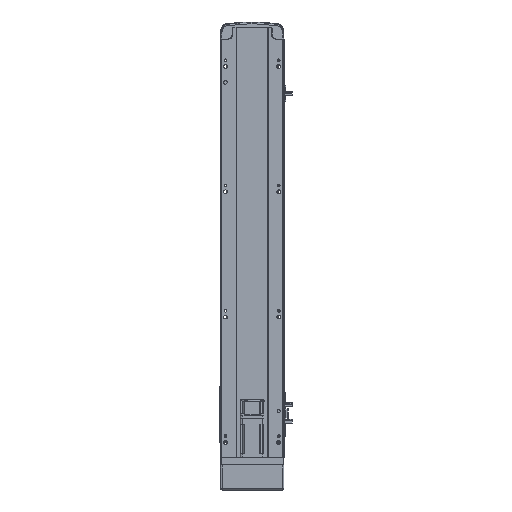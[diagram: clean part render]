
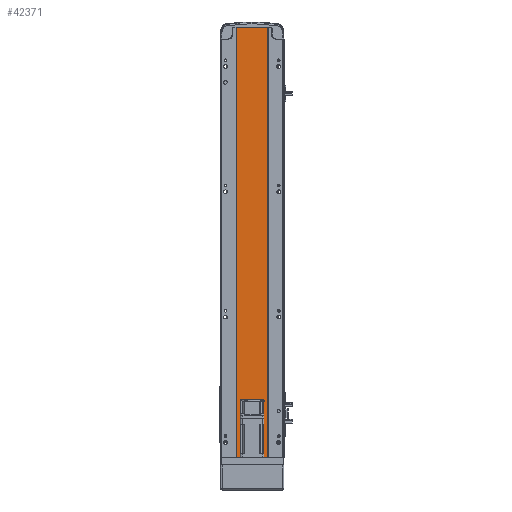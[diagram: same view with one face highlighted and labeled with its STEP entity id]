
A CAD part, front view. The second image highlights one B-rep face of the part: STEP entity #42371.
In plain terms, the highlighted planar face has unit normal (0, -1, 0).
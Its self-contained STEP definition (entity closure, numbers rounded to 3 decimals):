
#401 = EDGE_LOOP ( 'NONE', ( #9305, #34169, #57733, #53724 ) ) ;
#1762 = CARTESIAN_POINT ( 'NONE',  ( 24.5, 2., 687. ) ) ;
#3227 = LINE ( 'NONE', #35952, #7653 ) ;
#4751 = VECTOR ( 'NONE', #55505, 1000. ) ;
#4961 = EDGE_CURVE ( 'NONE', #14610, #27593, #10082, .T. ) ;
#5760 = CARTESIAN_POINT ( 'NONE',  ( -24.5, 2., 0. ) ) ;
#7138 = CARTESIAN_POINT ( 'NONE',  ( -24.5, 2., 687. ) ) ;
#7653 = VECTOR ( 'NONE', #49587, 1000. ) ;
#9305 = ORIENTED_EDGE ( 'NONE', *, *, #48823, .T. ) ;
#10082 = LINE ( 'NONE', #1762, #20570 ) ;
#11170 = AXIS2_PLACEMENT_3D ( 'NONE', #36351, #54825, #54615 ) ;
#13933 = VERTEX_POINT ( 'NONE', #22291 ) ;
#14610 = VERTEX_POINT ( 'NONE', #22994 ) ;
#15401 = VERTEX_POINT ( 'NONE', #5760 ) ;
#17434 = EDGE_CURVE ( 'NONE', #13933, #14610, #35469, .T. ) ;
#20570 = VECTOR ( 'NONE', #33000, 1000. ) ;
#22274 = LINE ( 'NONE', #24713, #4751 ) ;
#22291 = CARTESIAN_POINT ( 'NONE',  ( -24.5, 2., 687. ) ) ;
#22994 = CARTESIAN_POINT ( 'NONE',  ( 24.5, 2., 687. ) ) ;
#23482 = PLANE ( 'NONE',  #11170 ) ;
#24713 = CARTESIAN_POINT ( 'NONE',  ( -24.5, 2., 687. ) ) ;
#27593 = VERTEX_POINT ( 'NONE', #31590 ) ;
#31590 = CARTESIAN_POINT ( 'NONE',  ( 24.5, 2., 0. ) ) ;
#33000 = DIRECTION ( 'NONE',  ( 0., 0., -1. ) ) ;
#34169 = ORIENTED_EDGE ( 'NONE', *, *, #4961, .F. ) ;
#35469 = LINE ( 'NONE', #7138, #43733 ) ;
#35952 = CARTESIAN_POINT ( 'NONE',  ( 0., 2., 0. ) ) ;
#36351 = CARTESIAN_POINT ( 'NONE',  ( 0., 2., 687. ) ) ;
#36703 = EDGE_CURVE ( 'NONE', #13933, #15401, #22274, .T. ) ;
#42371 = ADVANCED_FACE ( 'NONE', ( #44271 ), #23482, .F. ) ;
#43733 = VECTOR ( 'NONE', #47918, 1000. ) ;
#44271 = FACE_OUTER_BOUND ( 'NONE', #401, .T. ) ;
#47918 = DIRECTION ( 'NONE',  ( 1., 0., 0. ) ) ;
#48823 = EDGE_CURVE ( 'NONE', #15401, #27593, #3227, .T. ) ;
#49587 = DIRECTION ( 'NONE',  ( 1., 0., 0. ) ) ;
#53724 = ORIENTED_EDGE ( 'NONE', *, *, #36703, .T. ) ;
#54615 = DIRECTION ( 'NONE',  ( 0., 0., 1. ) ) ;
#54825 = DIRECTION ( 'NONE',  ( 0., 1., 0. ) ) ;
#55505 = DIRECTION ( 'NONE',  ( 0., 0., -1. ) ) ;
#57733 = ORIENTED_EDGE ( 'NONE', *, *, #17434, .F. ) ;
